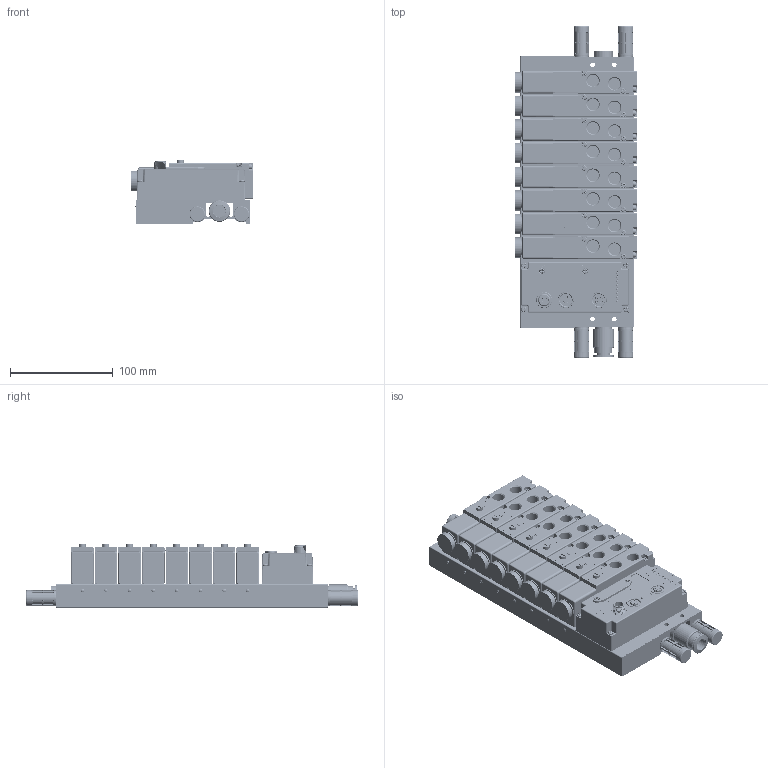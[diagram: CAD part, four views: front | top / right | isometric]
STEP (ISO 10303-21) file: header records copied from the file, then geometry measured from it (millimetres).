
FILE_DESCRIPTION (( 'STEP AP203' ), '1' );
FILE_NAME ('FV-A42-M528-S12-MPL.STEP', '2024-08-28T07:01:58', ( 'L' ), ( '' ), 'SwSTEP 2.0', 'SolidWorks 2019', '' );
FILE_SCHEMA (( 'CONFIG_CONTROL_DESIGN' ));
Length unit declared in the file: millimetre
Products named in the file (28): FV-A42-M5210-C6-S12-MPL.stp.STEP; FV-A42-M52.STEP; FV-MPL.step; _4V210-08_BY__id110_x_t.stp.STEP; B-1_4.stp; 200_________id137_x_t.stp.STEP; 32MM_______id245_x_t.stp.STEP; U-1_4-30.stp; FV-A42-M52-12-C6-L2-S10-T18_id218_x_t.stp.STEP; QS-G1_4-12-I.stp; FV-A42-M528-S12-MPL; ____1_id164_x_t.stp.STEP; FV-A42-8P.step; 32MM_______id191_x_t.stp.STEP
Assembly tree (72 placements, depth 4):
  FV-A42-M528-S12-MPL
    FV-A42-8P.step
    FV-A42-M52.STEP
      FV-A42-M5210-C6-S12-MPL.stp.STEP
        32MM_______id245_x_t.stp.STEP
        FV-A42-M52-12-C6-L2-S10-T18_id218_x_t.stp.STEP
        32MM_______id191_x_t.stp.STEP
        ____1_id164_x_t.stp.STEP
        200_________id137_x_t.stp.STEP
        _4V210-08_BY__id110_x_t.stp.STEP
    FV-MPL.step
    QS-G1_4-12-I.stp
    B-1_4.stp
    U-1_4-30.stp  x4
    FV-A42-M52.STEP
      FV-A42-M5210-C6-S12-MPL.stp.STEP
        32MM_______id245_x_t.stp.STEP
        FV-A42-M52-12-C6-L2-S10-T18_id218_x_t.stp.STEP
        32MM_______id191_x_t.stp.STEP
        ____1_id164_x_t.stp.STEP
        200_________id137_x_t.stp.STEP
        _4V210-08_BY__id110_x_t.stp.STEP
    FV-A42-M52.STEP
      FV-A42-M5210-C6-S12-MPL.stp.STEP
        32MM_______id245_x_t.stp.STEP
        FV-A42-M52-12-C6-L2-S10-T18_id218_x_t.stp.STEP
        32MM_______id191_x_t.stp.STEP
        ____1_id164_x_t.stp.STEP
        200_________id137_x_t.stp.STEP
        _4V210-08_BY__id110_x_t.stp.STEP
    FV-A42-M52.STEP
      FV-A42-M5210-C6-S12-MPL.stp.STEP
        32MM_______id245_x_t.stp.STEP
        FV-A42-M52-12-C6-L2-S10-T18_id218_x_t.stp.STEP
        32MM_______id191_x_t.stp.STEP
        ____1_id164_x_t.stp.STEP
        200_________id137_x_t.stp.STEP
        _4V210-08_BY__id110_x_t.stp.STEP
    FV-A42-M52.STEP
      FV-A42-M5210-C6-S12-MPL.stp.STEP
        32MM_______id245_x_t.stp.STEP
        FV-A42-M52-12-C6-L2-S10-T18_id218_x_t.stp.STEP
        32MM_______id191_x_t.stp.STEP
        ____1_id164_x_t.stp.STEP
        200_________id137_x_t.stp.STEP
        _4V210-08_BY__id110_x_t.stp.STEP
    FV-A42-M52.STEP
      FV-A42-M5210-C6-S12-MPL.stp.STEP
        32MM_______id245_x_t.stp.STEP
        FV-A42-M52-12-C6-L2-S10-T18_id218_x_t.stp.STEP
        32MM_______id191_x_t.stp.STEP
        ____1_id164_x_t.stp.STEP
        200_________id137_x_t.stp.STEP
        _4V210-08_BY__id110_x_t.stp.STEP
    FV-A42-M52.STEP
      FV-A42-M5210-C6-S12-MPL.stp.STEP
        32MM_______id245_x_t.stp.STEP
        FV-A42-M52-12-C6-L2-S10-T18_id218_x_t.stp.STEP
        32MM_______id191_x_t.stp.STEP
        ____1_id164_x_t.stp.STEP
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Bounding box: 117.8 x 323.1 x 62.1 mm (x, y, z)
Volume: 1146882.7 mm3; surface area: 414508.2 mm2
Topology: 56 solids, 99 shells, 8624 faces, 22054 edges, 13840 vertices
Faces by surface type: plane 3910, cylinder 2960, bspline 595, torus 449, cone 447, sphere 263
Entity records: 190483 total; most frequent: CARTESIAN_POINT 62803, ORIENTED_EDGE 26480, DIRECTION 24614, EDGE_CURVE 13240, VERTEX_POINT 8462, AXIS2_PLACEMENT_3D 8343, VECTOR 7928, LINE 7928
